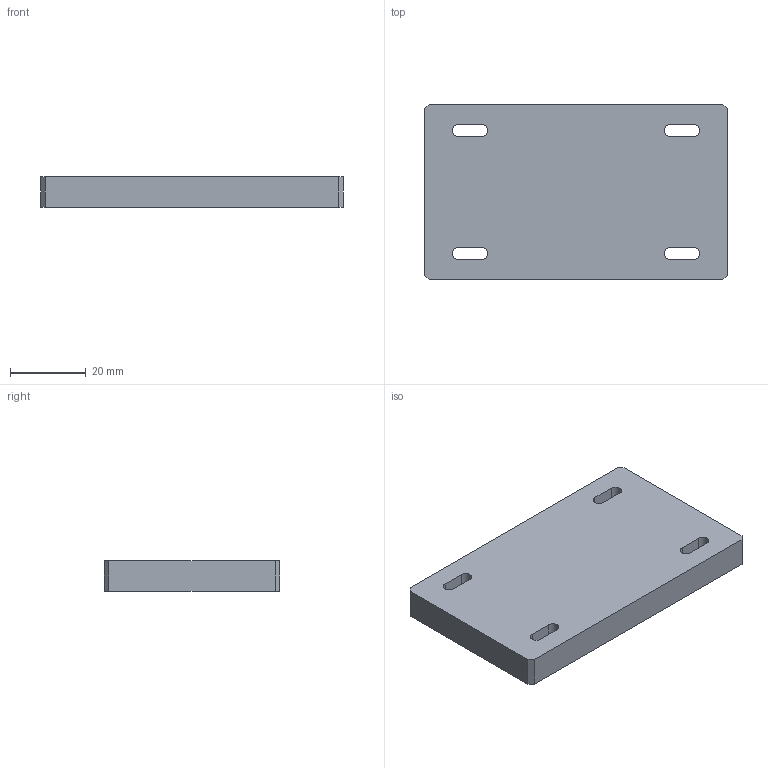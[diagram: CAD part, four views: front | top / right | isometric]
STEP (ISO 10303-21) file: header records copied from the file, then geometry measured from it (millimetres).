
FILE_DESCRIPTION(('Mechanical CAD reference from nasji.com'),'2;1');
FILE_NAME('NASJI.step','',(''),(''),'','NASJI distribution','');
FILE_SCHEMA(('AUTOMOTIVE_DESIGN { 1 0 10303 214 1 1 1 1 }'));
Length unit declared in the file: millimetre
Products named in the file (1): Open CASCADE STEP translator 7.8 66
Bounding box: 80 x 46.5 x 8 mm (x, y, z)
Volume: 28855 mm3; surface area: 9927.3 mm2
Topology: 1 solids, 1 shells, 26 faces, 72 edges, 48 vertices
Faces by surface type: plane 18, cylinder 8
Entity records: 1762 total; most frequent: CARTESIAN_POINT 323, DIRECTION 254, LINE 152, VECTOR 152, ORIENTED_EDGE 144, PCURVE 144, DEFINITIONAL_REPRESENTATION 144, EDGE_CURVE 72
